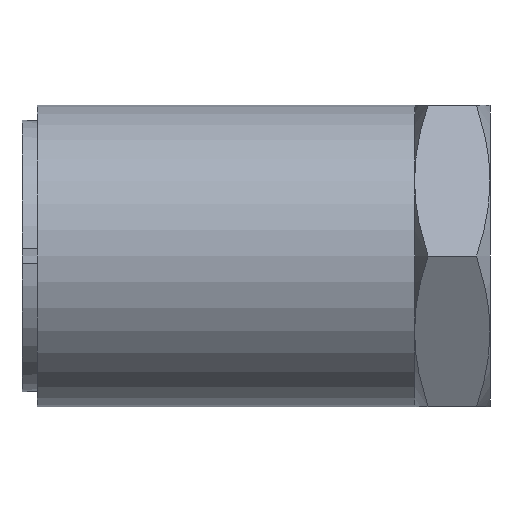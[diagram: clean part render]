
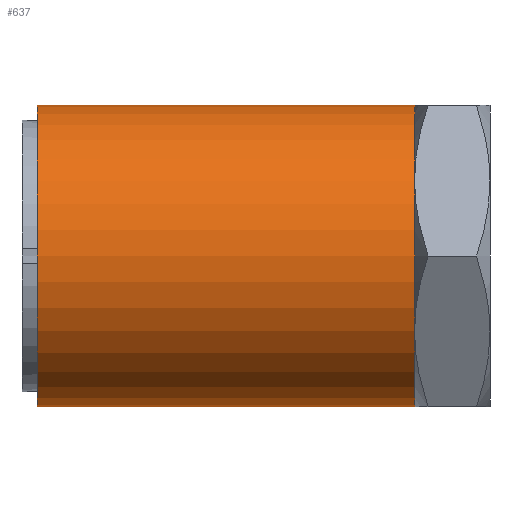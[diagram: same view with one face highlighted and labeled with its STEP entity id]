
A CAD part, front view. The second image highlights one B-rep face of the part: STEP entity #637.
In plain terms, the highlighted cylindrical face has radius 5 mm (diameter 10 mm), a partial arc.
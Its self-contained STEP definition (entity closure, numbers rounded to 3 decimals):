
#15 = AXIS2_PLACEMENT_3D ( 'NONE', #620, #601, #600 ) ;
#30 = AXIS2_PLACEMENT_3D ( 'NONE', #570, #571, #572 ) ;
#79 = AXIS2_PLACEMENT_3D ( 'NONE', #615, #607, #606 ) ;
#80 = AXIS2_PLACEMENT_3D ( 'NONE', #215, #213, #634 ) ;
#88 = EDGE_CURVE ( 'NONE', #701, #691, #739, .T. ) ;
#150 = EDGE_CURVE ( 'NONE', #673, #701, #1281, .T. ) ;
#160 = AXIS2_PLACEMENT_3D ( 'NONE', #457, #408, #407 ) ;
#187 = EDGE_CURVE ( 'NONE', #696, #714, #1291, .T. ) ;
#188 = EDGE_CURVE ( 'NONE', #696, #698, #1303, .T. ) ;
#198 = EDGE_CURVE ( 'NONE', #698, #691, #1311, .T. ) ;
#199 = EDGE_CURVE ( 'NONE', #714, #673, #1213, .T. ) ;
#213 = DIRECTION ( 'NONE',  ( -1., 0., 0. ) ) ;
#215 = CARTESIAN_POINT ( 'NONE',  ( 12.5, 0., 0. ) ) ;
#337 = CARTESIAN_POINT ( 'NONE',  ( 12.5, -4.33, -2.5 ) ) ;
#350 = CARTESIAN_POINT ( 'NONE',  ( 12.5, 0., 5. ) ) ;
#353 = CARTESIAN_POINT ( 'NONE',  ( 0., 0., -5. ) ) ;
#356 = CARTESIAN_POINT ( 'NONE',  ( 12.5, 0., -5. ) ) ;
#376 = CARTESIAN_POINT ( 'NONE',  ( 0., 0., 5. ) ) ;
#392 = CARTESIAN_POINT ( 'NONE',  ( 12.5, -4.33, 2.5 ) ) ;
#407 = DIRECTION ( 'NONE',  ( 0., 0., 1. ) ) ;
#408 = DIRECTION ( 'NONE',  ( -1., 0., 0. ) ) ;
#457 = CARTESIAN_POINT ( 'NONE',  ( 12.5, 0., 0. ) ) ;
#570 = CARTESIAN_POINT ( 'NONE',  ( 0., 0., 0. ) ) ;
#571 = DIRECTION ( 'NONE',  ( -1., 0., 0. ) ) ;
#572 = DIRECTION ( 'NONE',  ( 0., 0., 1. ) ) ;
#600 = DIRECTION ( 'NONE',  ( 0., 0., 1. ) ) ;
#601 = DIRECTION ( 'NONE',  ( -1., 0., 0. ) ) ;
#606 = DIRECTION ( 'NONE',  ( 0., 0., 1. ) ) ;
#607 = DIRECTION ( 'NONE',  ( -1., 0., 0. ) ) ;
#615 = CARTESIAN_POINT ( 'NONE',  ( 0., 0., 0. ) ) ;
#620 = CARTESIAN_POINT ( 'NONE',  ( 12.5, 0., 0. ) ) ;
#631 = DIRECTION ( 'NONE',  ( -1., 0., 0. ) ) ;
#633 = CARTESIAN_POINT ( 'NONE',  ( 0., 0., -5. ) ) ;
#634 = DIRECTION ( 'NONE',  ( 0., 0., 1. ) ) ;
#637 = ADVANCED_FACE ( 'NONE', ( #1240 ), #1317, .T. ) ;
#673 = VERTEX_POINT ( 'NONE', #392 ) ;
#691 = VERTEX_POINT ( 'NONE', #376 ) ;
#696 = VERTEX_POINT ( 'NONE', #356 ) ;
#698 = VERTEX_POINT ( 'NONE', #353 ) ;
#701 = VERTEX_POINT ( 'NONE', #350 ) ;
#710 = CARTESIAN_POINT ( 'NONE',  ( 0., 0., 5. ) ) ;
#714 = VERTEX_POINT ( 'NONE', #337 ) ;
#739 = LINE ( 'NONE', #710, #856 ) ;
#807 = ORIENTED_EDGE ( 'NONE', *, *, #188, .F. ) ;
#808 = ORIENTED_EDGE ( 'NONE', *, *, #187, .T. ) ;
#832 = ORIENTED_EDGE ( 'NONE', *, *, #150, .T. ) ;
#841 = ORIENTED_EDGE ( 'NONE', *, *, #198, .F. ) ;
#843 = ORIENTED_EDGE ( 'NONE', *, *, #199, .T. ) ;
#854 = ORIENTED_EDGE ( 'NONE', *, *, #88, .T. ) ;
#856 = VECTOR ( 'NONE', #1138, 1000. ) ;
#871 = EDGE_LOOP ( 'NONE', ( #807, #808, #843, #832, #854, #841 ) ) ;
#1138 = DIRECTION ( 'NONE',  ( -1., 0., 0. ) ) ;
#1213 = CIRCLE ( 'NONE', #15, 5. ) ;
#1240 = FACE_OUTER_BOUND ( 'NONE', #871, .T. ) ;
#1281 = CIRCLE ( 'NONE', #160, 5. ) ;
#1291 = CIRCLE ( 'NONE', #80, 5. ) ;
#1293 = VECTOR ( 'NONE', #631, 1000. ) ;
#1303 = LINE ( 'NONE', #633, #1293 ) ;
#1311 = CIRCLE ( 'NONE', #79, 5. ) ;
#1317 = CYLINDRICAL_SURFACE ( 'NONE', #30, 5. ) ;
